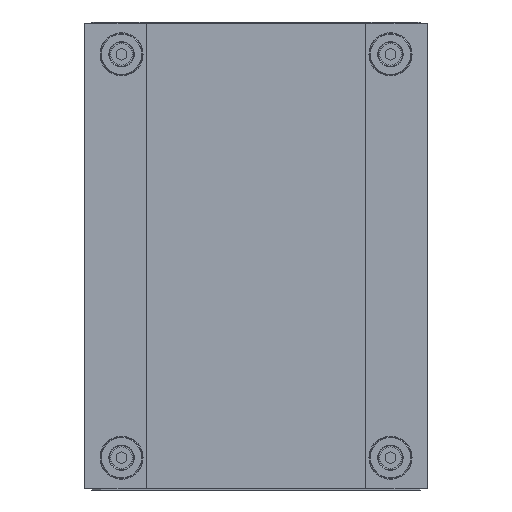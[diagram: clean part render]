
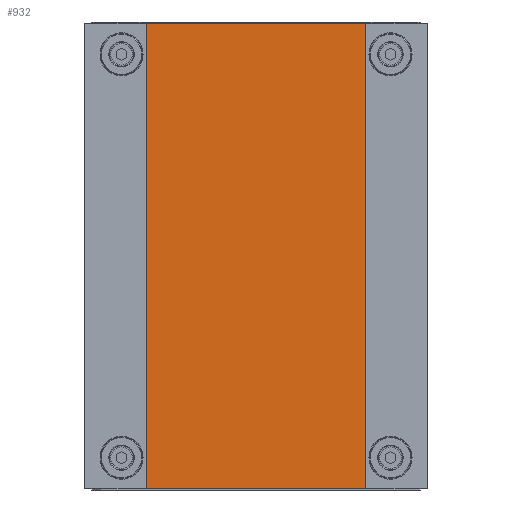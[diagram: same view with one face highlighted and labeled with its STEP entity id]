
A CAD part, front view. The second image highlights one B-rep face of the part: STEP entity #932.
In plain terms, the highlighted planar face has unit normal (0, -1, 0).
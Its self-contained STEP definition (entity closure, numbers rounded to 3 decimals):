
#661 = EDGE_CURVE ( 'NONE', #689, #7827, #3181, .T. ) ;
#689 = VERTEX_POINT ( 'NONE', #3345 ) ;
#932 = ADVANCED_FACE ( 'NONE', ( #4602 ), #4603, .F. ) ;
#987 = EDGE_LOOP ( 'NONE', ( #1087, #1803, #2320, #3213 ) ) ;
#1024 = VERTEX_POINT ( 'NONE', #5075 ) ;
#1087 = ORIENTED_EDGE ( 'NONE', *, *, #1265, .T. ) ;
#1265 = EDGE_CURVE ( 'NONE', #7827, #3656, #5660, .T. ) ;
#1428 = EDGE_CURVE ( 'NONE', #1024, #3656, #5820, .T. ) ;
#1803 = ORIENTED_EDGE ( 'NONE', *, *, #1428, .F. ) ;
#2320 = ORIENTED_EDGE ( 'NONE', *, *, #2664, .F. ) ;
#2485 = CARTESIAN_POINT ( 'NONE',  ( -84.5, -20., -173. ) ) ;
#2664 = EDGE_CURVE ( 'NONE', #689, #1024, #6647, .T. ) ;
#3181 = LINE ( 'NONE', #3182, #3183 ) ;
#3182 = CARTESIAN_POINT ( 'NONE',  ( -84.5, -20., 173. ) ) ;
#3183 = VECTOR ( 'NONE', #3184, 1000. ) ;
#3184 = DIRECTION ( 'NONE',  ( 0., 0., -1. ) ) ;
#3213 = ORIENTED_EDGE ( 'NONE', *, *, #661, .T. ) ;
#3345 = CARTESIAN_POINT ( 'NONE',  ( -84.5, -20., 173. ) ) ;
#3656 = VERTEX_POINT ( 'NONE', #7211 ) ;
#4602 = FACE_OUTER_BOUND ( 'NONE', #987, .T. ) ;
#4603 = PLANE ( 'NONE',  #4604 ) ;
#4604 = AXIS2_PLACEMENT_3D ( 'NONE', #4607, #4608, #4609 ) ;
#4607 = CARTESIAN_POINT ( 'NONE',  ( 84.5, -20., 173. ) ) ;
#4608 = DIRECTION ( 'NONE',  ( 0., 1., 0. ) ) ;
#4609 = DIRECTION ( 'NONE',  ( -1., 0., 0. ) ) ;
#5075 = CARTESIAN_POINT ( 'NONE',  ( 84.5, -20., 173. ) ) ;
#5660 = LINE ( 'NONE', #5661, #5662 ) ;
#5661 = CARTESIAN_POINT ( 'NONE',  ( 84.5, -20., -173. ) ) ;
#5662 = VECTOR ( 'NONE', #5663, 1000. ) ;
#5663 = DIRECTION ( 'NONE',  ( 1., 0., 0. ) ) ;
#5820 = LINE ( 'NONE', #5821, #5827 ) ;
#5821 = CARTESIAN_POINT ( 'NONE',  ( 84.5, -20., 173. ) ) ;
#5827 = VECTOR ( 'NONE', #5828, 1000. ) ;
#5828 = DIRECTION ( 'NONE',  ( 0., 0., -1. ) ) ;
#6647 = LINE ( 'NONE', #6648, #6649 ) ;
#6648 = CARTESIAN_POINT ( 'NONE',  ( 84.5, -20., 173. ) ) ;
#6649 = VECTOR ( 'NONE', #6650, 1000. ) ;
#6650 = DIRECTION ( 'NONE',  ( 1., 0., 0. ) ) ;
#7211 = CARTESIAN_POINT ( 'NONE',  ( 84.5, -20., -173. ) ) ;
#7827 = VERTEX_POINT ( 'NONE', #2485 ) ;
